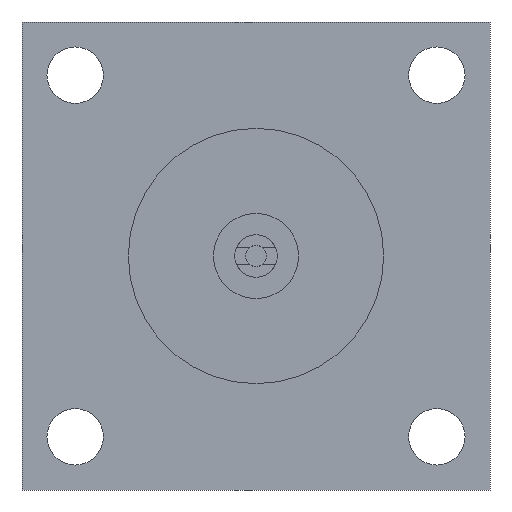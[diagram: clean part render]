
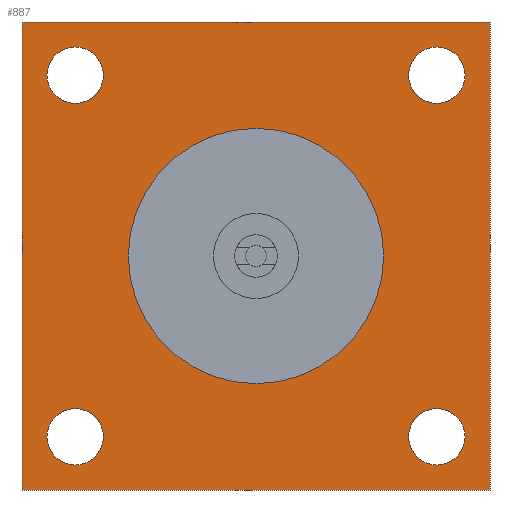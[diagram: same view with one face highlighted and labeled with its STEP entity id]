
A CAD part, left-side view. The second image highlights one B-rep face of the part: STEP entity #887.
In plain terms, the highlighted planar face has unit normal (-1, 0, 0).
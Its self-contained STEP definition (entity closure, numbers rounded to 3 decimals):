
#28 = VERTEX_POINT ( 'NONE', #61 ) ;
#53 = ORIENTED_EDGE ( 'NONE', *, *, #1372, .F. ) ;
#60 = LINE ( 'NONE', #1710, #811 ) ;
#61 = CARTESIAN_POINT ( 'NONE',  ( -20., 85., -98.25 ) ) ;
#83 = DIRECTION ( 'NONE',  ( 0., 0., -1. ) ) ;
#88 = CARTESIAN_POINT ( 'NONE',  ( -20., 110., 110. ) ) ;
#95 = CARTESIAN_POINT ( 'NONE',  ( -20., -110., -110. ) ) ;
#98 = VERTEX_POINT ( 'NONE', #250 ) ;
#101 = CARTESIAN_POINT ( 'NONE',  ( -20., 110., -110. ) ) ;
#103 = ORIENTED_EDGE ( 'NONE', *, *, #319, .F. ) ;
#128 = EDGE_LOOP ( 'NONE', ( #53, #899 ) ) ;
#130 = CARTESIAN_POINT ( 'NONE',  ( -20., 85., 85. ) ) ;
#142 = DIRECTION ( 'NONE',  ( -1., 0., 0. ) ) ;
#143 = CARTESIAN_POINT ( 'NONE',  ( -20., 110., 110. ) ) ;
#146 = VERTEX_POINT ( 'NONE', #1500 ) ;
#160 = DIRECTION ( 'NONE',  ( 0., 0., 1. ) ) ;
#178 = CARTESIAN_POINT ( 'NONE',  ( -20., 0., 0. ) ) ;
#180 = CIRCLE ( 'NONE', #880, 13.25 ) ;
#182 = CARTESIAN_POINT ( 'NONE',  ( -20., -85., 71.75 ) ) ;
#217 = CARTESIAN_POINT ( 'NONE',  ( -20., -110., 110. ) ) ;
#218 = DIRECTION ( 'NONE',  ( 1., 0., 0. ) ) ;
#225 = EDGE_CURVE ( 'NONE', #809, #972, #626, .T. ) ;
#250 = CARTESIAN_POINT ( 'NONE',  ( -20., 0., 60. ) ) ;
#265 = EDGE_CURVE ( 'NONE', #28, #146, #1630, .T. ) ;
#266 = CARTESIAN_POINT ( 'NONE',  ( -20., 85., -85. ) ) ;
#268 = AXIS2_PLACEMENT_3D ( 'NONE', #422, #428, #435 ) ;
#269 = DIRECTION ( 'NONE',  ( 0., 0., -1. ) ) ;
#277 = DIRECTION ( 'NONE',  ( -1., 0., 0. ) ) ;
#282 = CARTESIAN_POINT ( 'NONE',  ( -20., -85., -85. ) ) ;
#284 = DIRECTION ( 'NONE',  ( 0., 0., 1. ) ) ;
#287 = FACE_BOUND ( 'NONE', #1119, .T. ) ;
#305 = EDGE_LOOP ( 'NONE', ( #1538, #1492, #1338, #1658 ) ) ;
#319 = EDGE_CURVE ( 'NONE', #98, #946, #1587, .T. ) ;
#328 = FACE_BOUND ( 'NONE', #438, .T. ) ;
#350 = AXIS2_PLACEMENT_3D ( 'NONE', #130, #142, #160 ) ;
#359 = LINE ( 'NONE', #88, #1044 ) ;
#383 = VERTEX_POINT ( 'NONE', #217 ) ;
#401 = LINE ( 'NONE', #1790, #1458 ) ;
#405 = LINE ( 'NONE', #101, #1733 ) ;
#422 = CARTESIAN_POINT ( 'NONE',  ( -20., 0., 0. ) ) ;
#427 = DIRECTION ( 'NONE',  ( 0., 0., 1. ) ) ;
#428 = DIRECTION ( 'NONE',  ( -1., 0., 0. ) ) ;
#435 = DIRECTION ( 'NONE',  ( 0., 0., -1. ) ) ;
#438 = EDGE_LOOP ( 'NONE', ( #454, #846 ) ) ;
#446 = EDGE_CURVE ( 'NONE', #741, #1167, #359, .T. ) ;
#454 = ORIENTED_EDGE ( 'NONE', *, *, #225, .F. ) ;
#460 = VERTEX_POINT ( 'NONE', #95 ) ;
#475 = EDGE_CURVE ( 'NONE', #1167, #460, #405, .T. ) ;
#489 = AXIS2_PLACEMENT_3D ( 'NONE', #1150, #1105, #1236 ) ;
#523 = ORIENTED_EDGE ( 'NONE', *, *, #579, .F. ) ;
#576 = CARTESIAN_POINT ( 'NONE',  ( -20., 85., -85. ) ) ;
#579 = EDGE_CURVE ( 'NONE', #1362, #1637, #180, .T. ) ;
#583 = DIRECTION ( 'NONE',  ( -1., 0., 0. ) ) ;
#588 = DIRECTION ( 'NONE',  ( 0., 0., 1. ) ) ;
#613 = FACE_OUTER_BOUND ( 'NONE', #305, .T. ) ;
#625 = DIRECTION ( 'NONE',  ( 0., -1., 0. ) ) ;
#626 = CIRCLE ( 'NONE', #948, 13.25 ) ;
#634 = AXIS2_PLACEMENT_3D ( 'NONE', #178, #218, #269 ) ;
#638 = EDGE_CURVE ( 'NONE', #946, #98, #1800, .T. ) ;
#641 = AXIS2_PLACEMENT_3D ( 'NONE', #576, #583, #588 ) ;
#658 = CIRCLE ( 'NONE', #350, 13.25 ) ;
#660 = ORIENTED_EDGE ( 'NONE', *, *, #875, .F. ) ;
#704 = ORIENTED_EDGE ( 'NONE', *, *, #1611, .F. ) ;
#718 = CARTESIAN_POINT ( 'NONE',  ( -20., -85., -71.75 ) ) ;
#741 = VERTEX_POINT ( 'NONE', #143 ) ;
#760 = EDGE_LOOP ( 'NONE', ( #660, #523 ) ) ;
#762 = CARTESIAN_POINT ( 'NONE',  ( -20., 110., -110. ) ) ;
#791 = CIRCLE ( 'NONE', #1557, 13.25 ) ;
#809 = VERTEX_POINT ( 'NONE', #718 ) ;
#811 = VECTOR ( 'NONE', #1614, 1000. ) ;
#844 = VERTEX_POINT ( 'NONE', #1285 ) ;
#846 = ORIENTED_EDGE ( 'NONE', *, *, #1003, .F. ) ;
#875 = EDGE_CURVE ( 'NONE', #1637, #1362, #658, .T. ) ;
#880 = AXIS2_PLACEMENT_3D ( 'NONE', #1174, #1181, #1186 ) ;
#887 = ADVANCED_FACE ( 'NONE', ( #1704, #978, #328, #1343, #287, #613 ), #1740, .F. ) ;
#899 = ORIENTED_EDGE ( 'NONE', *, *, #1700, .F. ) ;
#945 = CARTESIAN_POINT ( 'NONE',  ( -20., 85., 98.25 ) ) ;
#946 = VERTEX_POINT ( 'NONE', #1220 ) ;
#948 = AXIS2_PLACEMENT_3D ( 'NONE', #282, #1251, #427 ) ;
#972 = VERTEX_POINT ( 'NONE', #1250 ) ;
#975 = VERTEX_POINT ( 'NONE', #182 ) ;
#978 = FACE_BOUND ( 'NONE', #128, .T. ) ;
#990 = CARTESIAN_POINT ( 'NONE',  ( -20., -85., 85. ) ) ;
#993 = CARTESIAN_POINT ( 'NONE',  ( -20., 85., 71.75 ) ) ;
#1003 = EDGE_CURVE ( 'NONE', #972, #809, #791, .T. ) ;
#1020 = DIRECTION ( 'NONE',  ( -1., 0., 0. ) ) ;
#1022 = EDGE_CURVE ( 'NONE', #460, #383, #60, .T. ) ;
#1044 = VECTOR ( 'NONE', #83, 1000. ) ;
#1058 = AXIS2_PLACEMENT_3D ( 'NONE', #1441, #1448, #1453 ) ;
#1060 = DIRECTION ( 'NONE',  ( 0., 0., 1. ) ) ;
#1094 = AXIS2_PLACEMENT_3D ( 'NONE', #990, #1020, #1060 ) ;
#1105 = DIRECTION ( 'NONE',  ( -1., 0., 0. ) ) ;
#1119 = EDGE_LOOP ( 'NONE', ( #704, #1617 ) ) ;
#1150 = CARTESIAN_POINT ( 'NONE',  ( -20., -85., 85. ) ) ;
#1165 = EDGE_LOOP ( 'NONE', ( #1693, #103 ) ) ;
#1167 = VERTEX_POINT ( 'NONE', #762 ) ;
#1174 = CARTESIAN_POINT ( 'NONE',  ( -20., 85., 85. ) ) ;
#1181 = DIRECTION ( 'NONE',  ( -1., 0., 0. ) ) ;
#1186 = DIRECTION ( 'NONE',  ( 0., 0., 1. ) ) ;
#1220 = CARTESIAN_POINT ( 'NONE',  ( -20., 0., -60. ) ) ;
#1236 = DIRECTION ( 'NONE',  ( 0., 0., 1. ) ) ;
#1250 = CARTESIAN_POINT ( 'NONE',  ( -20., -85., -98.25 ) ) ;
#1251 = DIRECTION ( 'NONE',  ( -1., 0., 0. ) ) ;
#1285 = CARTESIAN_POINT ( 'NONE',  ( -20., -85., 98.25 ) ) ;
#1338 = ORIENTED_EDGE ( 'NONE', *, *, #1579, .T. ) ;
#1343 = FACE_BOUND ( 'NONE', #760, .T. ) ;
#1362 = VERTEX_POINT ( 'NONE', #993 ) ;
#1372 = EDGE_CURVE ( 'NONE', #844, #975, #1686, .T. ) ;
#1441 = CARTESIAN_POINT ( 'NONE',  ( -20., 0., 0. ) ) ;
#1448 = DIRECTION ( 'NONE',  ( -1., 0., 0. ) ) ;
#1453 = DIRECTION ( 'NONE',  ( 0., 0., -1. ) ) ;
#1458 = VECTOR ( 'NONE', #1784, 1000. ) ;
#1492 = ORIENTED_EDGE ( 'NONE', *, *, #1022, .T. ) ;
#1500 = CARTESIAN_POINT ( 'NONE',  ( -20., 85., -71.75 ) ) ;
#1538 = ORIENTED_EDGE ( 'NONE', *, *, #475, .T. ) ;
#1557 = AXIS2_PLACEMENT_3D ( 'NONE', #1680, #1692, #1696 ) ;
#1579 = EDGE_CURVE ( 'NONE', #383, #741, #401, .T. ) ;
#1587 = CIRCLE ( 'NONE', #268, 60. ) ;
#1611 = EDGE_CURVE ( 'NONE', #146, #28, #1776, .T. ) ;
#1614 = DIRECTION ( 'NONE',  ( 0., 0., 1. ) ) ;
#1617 = ORIENTED_EDGE ( 'NONE', *, *, #265, .F. ) ;
#1630 = CIRCLE ( 'NONE', #1685, 13.25 ) ;
#1637 = VERTEX_POINT ( 'NONE', #945 ) ;
#1643 = CIRCLE ( 'NONE', #1094, 13.25 ) ;
#1658 = ORIENTED_EDGE ( 'NONE', *, *, #446, .T. ) ;
#1680 = CARTESIAN_POINT ( 'NONE',  ( -20., -85., -85. ) ) ;
#1685 = AXIS2_PLACEMENT_3D ( 'NONE', #266, #277, #284 ) ;
#1686 = CIRCLE ( 'NONE', #489, 13.25 ) ;
#1692 = DIRECTION ( 'NONE',  ( -1., 0., 0. ) ) ;
#1693 = ORIENTED_EDGE ( 'NONE', *, *, #638, .F. ) ;
#1696 = DIRECTION ( 'NONE',  ( 0., 0., 1. ) ) ;
#1700 = EDGE_CURVE ( 'NONE', #975, #844, #1643, .T. ) ;
#1704 = FACE_BOUND ( 'NONE', #1165, .T. ) ;
#1710 = CARTESIAN_POINT ( 'NONE',  ( -20., -110., 110. ) ) ;
#1733 = VECTOR ( 'NONE', #625, 1000. ) ;
#1740 = PLANE ( 'NONE',  #634 ) ;
#1776 = CIRCLE ( 'NONE', #641, 13.25 ) ;
#1784 = DIRECTION ( 'NONE',  ( 0., 1., 0. ) ) ;
#1790 = CARTESIAN_POINT ( 'NONE',  ( -20., 110., 110. ) ) ;
#1800 = CIRCLE ( 'NONE', #1058, 60. ) ;
